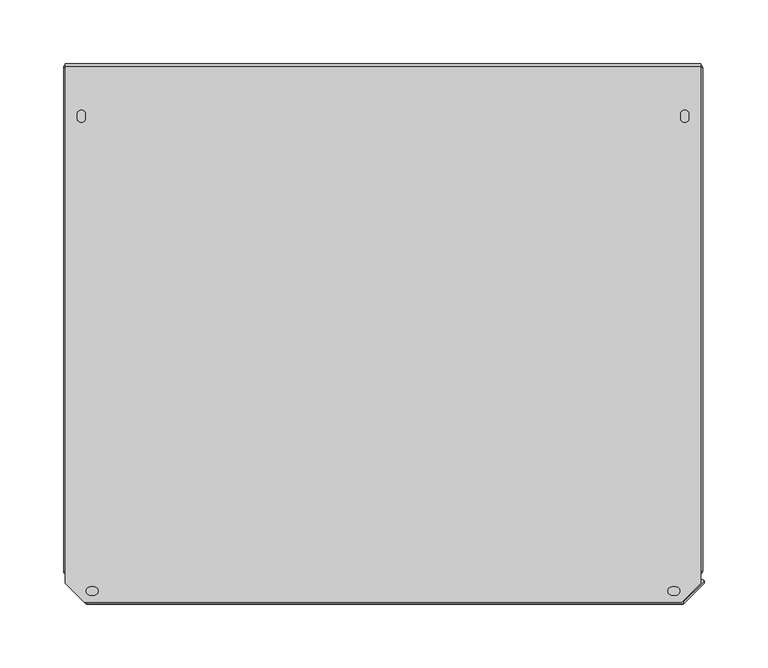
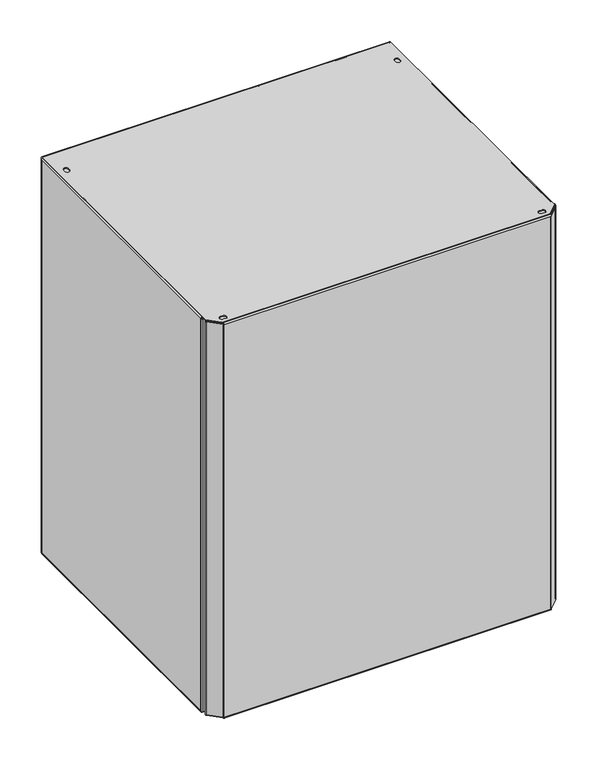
"""IFC4 building model written with IfcOpenShell, lengths in millimetres: proxy geometry, AES 48V 8A C180 AB 65 Ah : AES 48V 8A C180 AB 65 Ah."""

from ifc_helpers import new_model, si_unit, point, frame, frame_2d, origin, place, context, project, spatial, polyline, circle_curve, trimmed, segment, composite_curve, outline, extrude, faceted_brep, source, transform, mapped, element, save
from ifc_brep_helpers import plane_surface, cylinder_surface, revolved_surface, advanced_brep


def electrical_equipment_dfd686c2(model_context):
    return source(origin(), model_context, "Body", "SolidModel", [
        extrude(outline(composite_curve([segment(polyline([(-223.9437096, 1.7331973), (-222.9437137, 1.7331973)]), True, "CONTINUOUS"), segment(trimmed(circle_curve(frame_2d((-222.2070944, 1.7331973)), 0.7366193), [point((-222.9437137, 1.7331973))], [point((-222.2071096, 0.996578))], True, "CARTESIAN"), True, "CONTINUOUS"), segment(polyline([(-222.2071096, 0.996578), (-222.2071096, -0.0033973)]), True, "CONTINUOUS"), segment(trimmed(circle_curve(frame_2d((-222.2071096, 1.7332027)), 1.7366), [point((-222.2071096, -0.0033973))], [point((-223.9437096, 1.7331973))], False, "CARTESIAN"), True, "CONTINUOUS")], self_intersect=False)), frame((-233.3879617, 0.0, 0.0), z_axis=(1.0, 0.0, 0.0), x_axis=(0.0, 1.0, 0.0)), (0.0, 0.0, 1.0), 469.8475635),
        advanced_brep(
        [(236.4830901, -222.2071096, -0.0033973), (-233.4798905, -222.2071096, -0.0033973), (-249.0315, -206.6555001, -0.0033973), (-248.3243952, -204.9483981, -0.0033973), (251.3332463, -204.9483981, -0.0033973), (252.0386958, -206.6515039, -0.0033973), (236.4830901, -222.2071096, 0.996578), (252.0386958, -206.6515039, 0.996578), (251.3332463, -204.9483981, 0.996578), (-248.3644963, -204.9483981, 0.996578), (-249.0315, -206.6555001, 0.996578), (-233.4798905, -222.2071096, 0.996578)],
        [
            (0, 1),
            (1, 2),
            (2, 3, circle_curve(frame((-248.3243952, -205.9483953, -0.0033973), z_axis=(0.0, 0.0, -1.0), x_axis=(1.0, 0.0, 0.0)), 0.9999972)),
            (3, 4),
            (4, 5, circle_curve(frame((251.3332463, -205.9460544, -0.0033973), z_axis=(0.0, 0.0, -1.0), x_axis=(0.0, 1.0, 0.0)), 0.9976563)),
            (5, 0),
            (6, 7),
            (7, 8, circle_curve(frame((251.3332463, -205.9460544, 0.996578), z_axis=(0.0, 0.0, 1.0), x_axis=(0.0, 1.0, 0.0)), 0.9976563)),
            (8, 9),
            (9, 10, circle_curve(frame((-248.3243952, -205.9483953, 0.996578), z_axis=(0.0, 0.0, 1.0), x_axis=(1.0, 0.0, 0.0)), 0.9999972)),
            (10, 11),
            (11, 6),
            (5, 7),
            (6, 0),
            (4, 8),
            (3, 9),
            (2, 10),
            (1, 11),
        ],
        [
            plane_surface(frame((-233.4798903, -222.2071096, -0.0033973), z_axis=(0.0, 0.0, -1.0), x_axis=(-1.0, 0.0, 0.0))),
            plane_surface(frame((-233.4798903, -222.2071096, 0.996578), z_axis=(0.0, 0.0, 1.0), x_axis=(1.0, 0.0, 0.0))),
            plane_surface(frame((252.0386958, -206.6515039, -0.0033973), z_axis=(0.707106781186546, -0.7071067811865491, 0.0), x_axis=(0.0, 0.0, 1.0))),
            cylinder_surface(frame((251.3332463, -205.9460544, 0.996578), z_axis=(0.0, 0.0, -1.0), x_axis=(0.0, 1.0, 0.0)), 0.9976563),
            plane_surface(frame((-248.3644963, -204.9483981, -0.0033973), z_axis=(0.0, 1.0, 0.0), x_axis=(0.0, 0.0, 1.0))),
            cylinder_surface(frame((-248.3243952, -205.9483953, 0.996578), z_axis=(0.0, 0.0, -1.0), x_axis=(1.0, 0.0, 0.0)), 0.9999972),
            plane_surface(frame((-233.4798905, -222.2071096, -0.0033973), z_axis=(-0.7071067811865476, -0.7071067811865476, 0.0), x_axis=(0.0, 0.0, 1.0))),
            plane_surface(frame((236.4830901, -222.2071096, -0.0033973), z_axis=(0.0, -1.0, 0.0), x_axis=(0.0, 0.0, 1.0))),
        ],
        [
            (0, [[1, 2, 3, 4, 5, 6]]),
            (1, [[7, 8, 9, 10, 11, 12]]),
            (2, [[-6, 13, -7, 14]]),
            (3, [[-5, 15, -8, -13]]),
            (4, [[-4, 16, -9, -15]]),
            (5, [[-3, 17, -10, -16]]),
            (6, [[-2, 18, -11, -17]]),
            (7, [[-1, -14, -12, -18]]),
        ],
    ),
        extrude(outline(composite_curve([segment(trimmed(circle_curve(frame_2d((-222.2071096, 598.2599891)), 1.7366), [point((-223.9437096, 598.2599945))], [point((-222.2071096, 599.9965891))], False, "CARTESIAN"), True, "CONTINUOUS"), segment(polyline([(-222.2071096, 599.9965891), (-222.2071096, 598.9966138)]), True, "CONTINUOUS"), segment(trimmed(circle_curve(frame_2d((-222.2070944, 598.2599945)), 0.7366193), [point((-222.2071096, 598.9966138))], [point((-222.9437137, 598.2599945))], True, "CARTESIAN"), True, "CONTINUOUS"), segment(polyline([(-222.9437137, 598.2599945), (-223.9437096, 598.2599945)]), True, "CONTINUOUS")], self_intersect=False)), frame((-233.3879617, 0.0, 0.0), z_axis=(1.0, 0.0, 0.0), x_axis=(0.0, 1.0, 0.0)), (0.0, 0.0, 1.0), 469.8475635),
        advanced_brep(
        [(236.4830901, -222.2071096, 599.9965891), (252.0386958, -206.6515039, 599.9965891), (251.3332463, -204.9483981, 599.9965891), (-248.3644963, -204.9483981, 599.9965891), (-249.0315, -206.6555001, 599.9965891), (-233.4798905, -222.2071096, 599.9965891), (236.4830901, -222.2071096, 598.9966138), (-233.4798905, -222.2071096, 598.9966138), (-249.0315, -206.6555001, 598.9966138), (-248.3243952, -204.9483981, 598.9966138), (251.3332463, -204.9483981, 598.9966138), (252.0386958, -206.6515039, 598.9966138)],
        [
            (0, 1),
            (1, 2, circle_curve(frame((251.3332463, -205.9460544, 599.9965891), z_axis=(0.0, 0.0, 1.0), x_axis=(0.0, 1.0, 0.0)), 0.9976563)),
            (2, 3),
            (3, 4, circle_curve(frame((-248.3243952, -205.9483953, 599.9965891), z_axis=(0.0, 0.0, 1.0), x_axis=(1.0, 0.0, 0.0)), 0.9999972)),
            (4, 5),
            (5, 0),
            (6, 7),
            (7, 8),
            (8, 9, circle_curve(frame((-248.3243952, -205.9483953, 598.9966138), z_axis=(0.0, 0.0, -1.0), x_axis=(1.0, 0.0, 0.0)), 0.9999972)),
            (9, 10),
            (10, 11, circle_curve(frame((251.3332463, -205.9460544, 598.9966138), z_axis=(0.0, 0.0, -1.0), x_axis=(0.0, 1.0, 0.0)), 0.9976563)),
            (11, 6),
            (0, 6),
            (11, 1),
            (10, 2),
            (9, 3),
            (8, 4),
            (7, 5),
        ],
        [
            plane_surface(frame((252.0346996, -206.6555001, 599.9965891), z_axis=(0.0, 0.0, 1.0), x_axis=(0.7071067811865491, 0.707106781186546, 0.0))),
            plane_surface(frame((252.0346996, -206.6555001, 598.9966138), z_axis=(0.0, 0.0, -1.0), x_axis=(-0.7071067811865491, -0.707106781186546, 0.0))),
            plane_surface(frame((236.4830901, -222.2071096, 599.9965891), z_axis=(0.707106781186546, -0.7071067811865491, 0.0), x_axis=(0.0, 0.0, -1.0))),
            cylinder_surface(frame((251.3332463, -205.9460544, 598.9966138), z_axis=(0.0, 0.0, 1.0), x_axis=(0.0, 1.0, 0.0)), 0.9976563),
            plane_surface(frame((251.3332463, -204.9483981, 599.9965891), z_axis=(0.0, 1.0, 0.0), x_axis=(0.0, 0.0, -1.0))),
            cylinder_surface(frame((-248.3243952, -205.9483953, 598.9966138), z_axis=(0.0, 0.0, 1.0), x_axis=(1.0, 0.0, 0.0)), 0.9999972),
            plane_surface(frame((-249.0315, -206.6555001, 599.9965891), z_axis=(-0.7071067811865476, -0.7071067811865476, 0.0), x_axis=(0.0, 0.0, -1.0))),
            plane_surface(frame((-233.4798905, -222.2071096, 599.9965891), z_axis=(0.0, -1.0, 0.0), x_axis=(0.0, 0.0, -1.0))),
        ],
        [
            (0, [[1, 2, 3, 4, 5, 6]]),
            (1, [[7, 8, 9, 10, 11, 12]]),
            (2, [[-1, 13, -12, 14]]),
            (3, [[-2, -14, -11, 15]]),
            (4, [[-3, -15, -10, 16]]),
            (5, [[-4, -16, -9, 17]]),
            (6, [[-5, -17, -8, 18]]),
            (7, [[-6, -18, -7, -13]]),
        ],
    ),
        extrude(outline(composite_curve([segment(trimmed(circle_curve(frame_2d((-248.2649894, -206.684579)), 1.7371967), [point((-249.4933722, -207.9129633))], [point((-248.3241898, -204.9483913))], False, "CARTESIAN"), True, "CONTINUOUS"), segment(polyline([(-248.3241898, -204.9483913), (-239.0437194, -204.9483913), (-239.0437194, -205.948403), (-248.2654062, -205.948403)]), True, "CONTINUOUS"), segment(trimmed(circle_curve(frame_2d((-248.2654062, -206.6849972)), 0.7365943), [point((-248.2654062, -205.948403))], [point((-248.786257, -207.205848))], True, "CARTESIAN"), True, "CONTINUOUS"), segment(polyline([(-248.786257, -207.205848), (-233.3852933, -222.6068117)]), True, "CONTINUOUS"), segment(trimmed(circle_curve(frame_2d((-232.5719499, -221.7934683)), 1.1502413), [point((-233.3852933, -222.6068117))], [point((-232.5719499, -222.9437096))], True, "CARTESIAN"), True, "CONTINUOUS"), segment(polyline([(-232.5719499, -222.9437096), (235.5919828, -222.9437096)]), True, "CONTINUOUS"), segment(trimmed(circle_curve(frame_2d((235.5919828, -221.8341076)), 1.109602), [point((235.5919828, -222.9437096))], [point((236.3765899, -222.6187147))], True, "CARTESIAN"), True, "CONTINUOUS"), segment(polyline([(236.3765899, -222.6187147), (251.7894486, -207.205856)]), True, "CONTINUOUS"), segment(trimmed(circle_curve(frame_2d((251.2685945, -206.6850019)), 0.7365989), [point((251.7894486, -207.205856))], [point((251.2685945, -205.948403))], True, "CARTESIAN"), True, "CONTINUOUS"), segment(polyline([(251.2685945, -205.948403), (242.046919, -205.948403), (242.046919, -204.9483981), (251.3275882, -204.9483981)]), True, "CONTINUOUS"), segment(trimmed(circle_curve(frame_2d((251.3275882, -206.6611568)), 1.7127587), [point((251.3275882, -204.9483981))], [point((252.4965719, -207.9129633))], False, "CARTESIAN"), True, "CONTINUOUS"), segment(polyline([(252.4965719, -207.9129633), (237.1101717, -223.2993454)]), True, "CONTINUOUS"), segment(trimmed(circle_curve(frame_2d((235.5545377, -221.7437096)), 2.2), [point((237.1101717, -223.2993454))], [point((235.5545377, -223.9437096))], False, "CARTESIAN"), True, "CONTINUOUS"), segment(polyline([(235.5545377, -223.9437096), (-232.9448591, -223.9437096)]), True, "CONTINUOUS"), segment(trimmed(circle_curve(frame_2d((-232.9448591, -222.6937543)), 1.2499553), [point((-232.9448591, -223.9437096))], [point((-233.8287105, -223.5776067))], False, "CARTESIAN"), True, "CONTINUOUS"), segment(polyline([(-233.8287105, -223.5776067), (-249.4933722, -207.9129633)]), True, "CONTINUOUS")], self_intersect=False)), frame((0.0, 0.0, 1.7300001), z_axis=(0.0, 0.0, 1.0), x_axis=(1.0, 0.0, 0.0)), (0.0, 0.0, 1.0), 596.5299944),
        extrude(outline(polyline([(593.9965919, 249.9999946), (593.9965919, -249.999991), (5.9965998, -249.999991), (5.9965998, 249.9999946), (593.9965919, 249.9999946)]), holes=[composite_curve([segment(trimmed(circle_curve(frame_2d((476.2996846, 233.5465454)), 7.9534552), [point((476.2996846, 241.5000006))], [point((476.2996846, 225.5930903))], True, "CARTESIAN"), True, "CONTINUOUS"), segment(trimmed(circle_curve(frame_2d((476.2996846, 233.5465454)), 7.9534552), [point((476.2996846, 225.5930903))], [point((476.2996846, 241.5000006))], True, "CARTESIAN"), True, "CONTINUOUS")], self_intersect=False), composite_curve([segment(trimmed(circle_curve(frame_2d((476.2996846, -233.5465418)), 7.9534552), [point((476.2996846, -241.499997))], [point((476.2996846, -225.5930867))], True, "CARTESIAN"), True, "CONTINUOUS"), segment(trimmed(circle_curve(frame_2d((476.2996846, -233.5465418)), 7.9534552), [point((476.2996846, -225.5930867))], [point((476.2996846, -241.499997))], True, "CARTESIAN"), True, "CONTINUOUS")], self_intersect=False), composite_curve([segment(trimmed(circle_curve(frame_2d((238.2382923, 233.5465454)), 7.9534552), [point((238.2382923, 241.5000006))], [point((238.2382923, 225.5930903))], True, "CARTESIAN"), True, "CONTINUOUS"), segment(trimmed(circle_curve(frame_2d((238.2382923, 233.5465454)), 7.9534552), [point((238.2382923, 225.5930903))], [point((238.2382923, 241.5000006))], True, "CARTESIAN"), True, "CONTINUOUS")], self_intersect=False), composite_curve([segment(trimmed(circle_curve(frame_2d((238.2382923, -233.5465418)), 7.9534552), [point((238.2382923, -241.499997))], [point((238.2382923, -225.5930867))], True, "CARTESIAN"), True, "CONTINUOUS"), segment(trimmed(circle_curve(frame_2d((238.2382923, -233.5465418)), 7.9534552), [point((238.2382923, -225.5930867))], [point((238.2382923, -241.499997))], True, "CARTESIAN"), True, "CONTINUOUS")], self_intersect=False)]), frame((0.0, 200.0016019, 0.0), z_axis=(0.0, 1.0, 0.0), x_axis=(0.0, 0.0, 1.0)), (0.0, 0.0, 1.0), 1.0),
        advanced_brep(
        [(225.6779933, -199.0016068, 1.7366), (249.7649945, -199.0016068, 1.7366), (250.5016, -198.2649981, 1.7366), (251.5015966, -198.2649981, 1.7366), (249.7649945, -200.0016003, 1.7366), (226.0021062, -200.0016003, 1.7366), (225.5049927, -200.4987137, 1.7366), (225.5049927, -201.5785486, 1.7366), (224.5049992, -201.5785486, 1.7366), (224.5049992, -200.1746009, 1.7366), (225.6779933, -199.0016068, 597.9966), (224.5049992, -200.1746009, 597.9966), (224.5049992, -208.0016025, 597.9966), (225.5049927, -208.0016025, 597.9966), (225.5049927, -200.4987137, 597.9966), (226.0021062, -200.0016003, 597.9966), (249.7649945, -200.0016003, 597.9966), (251.5015966, -198.2649981, 597.9966), (250.5016, -198.2649981, 597.9966), (249.7649945, -199.0016037, 597.9966), (225.5049927, -208.0016025, 25.9966009), (225.5049927, -201.5785486, 25.9966009), (224.5049992, -208.0016025, 25.9966009), (224.5049992, -201.5785486, 25.9966009)],
        [
            (0, 1),
            (1, 2, circle_curve(frame((249.7649945, -198.2649981, 1.7366), z_axis=(0.0, 0.0, 1.0), x_axis=(1.0, 0.0, 0.0)), 0.7366055)),
            (2, 3),
            (3, 4, circle_curve(frame((249.7649945, -198.2649981, 1.7366), z_axis=(0.0, 0.0, -1.0), x_axis=(1.0, 0.0, 0.0)), 1.7366021)),
            (4, 5),
            (5, 6, circle_curve(frame((226.0021062, -200.4987137, 1.7366), z_axis=(0.0, 0.0, 1.0), x_axis=(1.0, 0.0, 0.0)), 0.4971135)),
            (6, 7),
            (7, 8),
            (8, 9),
            (9, 0, circle_curve(frame((225.6779933, -200.1746009, 1.7366), z_axis=(0.0, 0.0, -1.0), x_axis=(1.0, 0.0, 0.0)), 1.1729941)),
            (10, 11, circle_curve(frame((225.6779933, -200.1746009, 597.9966), z_axis=(0.0, 0.0, 1.0), x_axis=(1.0, 0.0, 0.0)), 1.1729941)),
            (11, 12),
            (12, 13),
            (13, 14),
            (14, 15, circle_curve(frame((226.0021062, -200.4987137, 597.9966), z_axis=(0.0, 0.0, -1.0), x_axis=(1.0, 0.0, 0.0)), 0.4971135)),
            (15, 16),
            (16, 17, circle_curve(frame((249.7649945, -198.2649981, 597.9966), z_axis=(0.0, 0.0, 1.0), x_axis=(1.0, 0.0, 0.0)), 1.7366021)),
            (17, 18),
            (18, 19, circle_curve(frame((249.7649945, -198.2649981, 597.9966), z_axis=(0.0, 0.0, -1.0), x_axis=(1.0, 0.0, 0.0)), 0.7366055)),
            (19, 10),
            (0, 10),
            (19, 1),
            (18, 2),
            (17, 3),
            (16, 4),
            (15, 5),
            (14, 6),
            (13, 20),
            (20, 21),
            (21, 7),
            (12, 22),
            (22, 20),
            (11, 9),
            (8, 23),
            (23, 22),
            (21, 23),
        ],
        [
            plane_surface(frame((226.8509874, -200.1746009, 1.7366), z_axis=(0.0, 0.0, -1.0), x_axis=(0.0, -1.0, 0.0))),
            plane_surface(frame((226.8509874, -200.1746009, 597.9966), z_axis=(0.0, 0.0, 1.0), x_axis=(0.0, 1.0, 0.0))),
            plane_surface(frame((249.7649945, -199.0016068, 597.9966), z_axis=(0.0, 1.0, 0.0), x_axis=(0.0, 0.0, -1.0))),
            revolved_surface(polyline([(250.5016, -198.2649981, 1.7366), (250.5016, -198.2649981, 597.9966)]), (249.7649945, -198.2649981, 1.7366), (0.0, 0.0, -1.0)),
            plane_surface(frame((251.5015966, -198.2649981, 597.9966), z_axis=(0.0, 1.0, 0.0), x_axis=(0.0, 0.0, -1.0))),
            cylinder_surface(frame((249.7649945, -198.2649981, 1.7366), z_axis=(0.0, 0.0, 1.0), x_axis=(1.0, 0.0, 0.0)), 1.7366021),
            plane_surface(frame((226.0021062, -200.0016003, 597.9966), z_axis=(0.0, -1.0, 0.0), x_axis=(0.0, 0.0, -1.0))),
            revolved_surface(polyline([(226.4992197, -200.4987137, 1.7366), (226.4992197, -200.4987137, 597.9966)]), (226.0021062, -200.4987137, 1.7366), (0.0, 0.0, -1.0)),
            plane_surface(frame((225.5049927, -208.0016025, 597.9966), z_axis=(1.0, 0.0, 0.0), x_axis=(0.0, 0.0, -1.0))),
            plane_surface(frame((224.5049992, -208.0016025, 597.9966), z_axis=(0.0, -1.0, 0.0), x_axis=(0.0, 0.0, -1.0))),
            plane_surface(frame((224.5049992, -200.1746009, 597.9966), z_axis=(-1.0, 0.0, 0.0), x_axis=(0.0, 0.0, -1.0))),
            cylinder_surface(frame((225.6779933, -200.1746009, 1.7366), z_axis=(0.0, 0.0, 1.0), x_axis=(1.0, 0.0, 0.0)), 1.1729941),
            plane_surface(frame((225.5049927, -201.5785486, 1.7366), z_axis=(0.0, -1.0, 0.0), x_axis=(0.0, 0.0, -1.0))),
            plane_surface(frame((224.5049992, -201.5785486, 25.9966009), z_axis=(0.0, 0.0, -1.0), x_axis=(0.0, -1.0, 0.0))),
        ],
        [
            (0, [[1, 2, 3, 4, 5, 6, 7, 8, 9, 10]]),
            (1, [[11, 12, 13, 14, 15, 16, 17, 18, 19, 20]]),
            (2, [[-1, 21, -20, 22]]),
            (3, [[-2, -22, -19, 23]]),
            (4, [[-3, -23, -18, 24]]),
            (5, [[-4, -24, -17, 25]]),
            (6, [[-5, -25, -16, 26]]),
            (7, [[-6, -26, -15, 27]]),
            (8, [[-14, 28, 29, 30, -7, -27]]),
            (9, [[-13, 31, 32, -28]]),
            (10, [[-12, 33, -9, 34, 35, -31]]),
            (11, [[-10, -33, -11, -21]]),
            (12, [[36, -34, -8, -30]]),
            (13, [[-36, -29, -32, -35]]),
        ],
    ),
        advanced_brep(
        [(227.5016005, 199.0016068, 1.7366), (227.5016005, 200.0016003, 1.7366), (249.7649945, 200.0016003, 1.7366), (251.5015966, 198.2649981, 1.7366), (250.5016, 198.2649981, 1.7366), (249.7649945, 199.0016037, 1.7366), (227.5016005, 199.0016068, 597.9966), (249.7649945, 199.0016068, 597.9966), (250.5016, 198.2649981, 597.9966), (251.5015966, 198.2649981, 597.9966), (249.7649945, 200.0016003, 597.9966), (227.5016005, 200.0016003, 597.9966)],
        [
            (0, 1),
            (1, 2),
            (2, 3, circle_curve(frame((249.7649945, 198.2649981, 1.7366), z_axis=(0.0, 0.0, -1.0), x_axis=(1.0, 0.0, 0.0)), 1.7366021)),
            (3, 4),
            (4, 5, circle_curve(frame((249.7649945, 198.2649981, 1.7366), z_axis=(0.0, 0.0, 1.0), x_axis=(1.0, 0.0, 0.0)), 0.7366055)),
            (5, 0),
            (6, 7),
            (7, 8, circle_curve(frame((249.7649945, 198.2649981, 597.9966), z_axis=(0.0, 0.0, -1.0), x_axis=(1.0, 0.0, 0.0)), 0.7366055)),
            (8, 9),
            (9, 10, circle_curve(frame((249.7649945, 198.2649981, 597.9966), z_axis=(0.0, 0.0, 1.0), x_axis=(1.0, 0.0, 0.0)), 1.7366021)),
            (10, 11),
            (11, 6),
            (6, 0),
            (5, 7),
            (4, 8),
            (3, 9),
            (2, 10),
            (1, 11),
        ],
        [
            plane_surface(frame((249.7649945, 199.0016068, 1.7366), z_axis=(0.0, 0.0, -1.0), x_axis=(-1.0, 0.0, 0.0))),
            plane_surface(frame((249.7649945, 199.0016068, 597.9966), z_axis=(0.0, 0.0, 1.0), x_axis=(1.0, 0.0, 0.0))),
            plane_surface(frame((227.5016005, 199.0016068, 597.9966), z_axis=(0.0, -1.0, 0.0), x_axis=(0.0, 0.0, -1.0))),
            revolved_surface(polyline([(250.5016, 198.2649981, 1.7366), (250.5016, 198.2649981, 597.9966)]), (249.7649945, 198.2649981, 1.7366), (0.0, 0.0, -1.0)),
            plane_surface(frame((250.5016, 198.2649981, 597.9966), z_axis=(0.0, -1.0, 0.0), x_axis=(0.0, 0.0, -1.0))),
            cylinder_surface(frame((249.7649945, 198.2649981, 1.7366), z_axis=(0.0, 0.0, 1.0), x_axis=(1.0, 0.0, 0.0)), 1.7366021),
            plane_surface(frame((249.7649945, 200.0016003, 597.9966), z_axis=(0.0, 1.0, 0.0), x_axis=(0.0, 0.0, -1.0))),
            plane_surface(frame((227.5016005, 200.0016003, 597.9966), z_axis=(-1.0, 0.0, 0.0), x_axis=(0.0, 0.0, -1.0))),
        ],
        [
            (0, [[1, 2, 3, 4, 5, 6]]),
            (1, [[7, 8, 9, 10, 11, 12]]),
            (2, [[-7, 13, -6, 14]]),
            (3, [[-8, -14, -5, 15]]),
            (4, [[-9, -15, -4, 16]]),
            (5, [[-10, -16, -3, 17]]),
            (6, [[-11, -17, -2, 18]]),
            (7, [[-12, -18, -1, -13]]),
        ],
    ),
        advanced_brep(
        [(-227.5016005, 199.0016068, 1.7366), (-249.7649945, 199.0016068, 1.7366), (-250.5016, 198.2649981, 1.7366), (-251.5015966, 198.2649981, 1.7366), (-249.7649945, 200.0016003, 1.7366), (-227.5016005, 200.0016003, 1.7366), (-227.5016005, 199.0016068, 597.9966), (-227.5016005, 200.0016003, 597.9966), (-249.7649945, 200.0016003, 597.9966), (-251.5015966, 198.2649981, 597.9966), (-250.5016, 198.2649981, 597.9966), (-249.7649945, 199.0016037, 597.9966)],
        [
            (0, 1),
            (1, 2, circle_curve(frame((-249.7649945, 198.2649981, 1.7366), z_axis=(0.0, 0.0, 1.0), x_axis=(-1.0, 0.0, 0.0)), 0.7366055)),
            (2, 3),
            (3, 4, circle_curve(frame((-249.7649945, 198.2649981, 1.7366), z_axis=(0.0, 0.0, -1.0), x_axis=(-1.0, 0.0, 0.0)), 1.7366021)),
            (4, 5),
            (5, 0),
            (6, 7),
            (7, 8),
            (8, 9, circle_curve(frame((-249.7649945, 198.2649981, 597.9966), z_axis=(0.0, 0.0, 1.0), x_axis=(-1.0, 0.0, 0.0)), 1.7366021)),
            (9, 10),
            (10, 11, circle_curve(frame((-249.7649945, 198.2649981, 597.9966), z_axis=(0.0, 0.0, -1.0), x_axis=(-1.0, 0.0, 0.0)), 0.7366055)),
            (11, 6),
            (11, 1),
            (0, 6),
            (10, 2),
            (9, 3),
            (8, 4),
            (7, 5),
        ],
        [
            plane_surface(frame((-227.5016005, 200.0016003, 1.7366), z_axis=(0.0, 0.0, -1.0), x_axis=(0.0, -1.0, 0.0))),
            plane_surface(frame((-227.5016005, 200.0016003, 597.9966), z_axis=(0.0, 0.0, 1.0), x_axis=(0.0, 1.0, 0.0))),
            plane_surface(frame((-249.7649945, 199.0016068, 597.9966), z_axis=(0.0, -1.0, 0.0), x_axis=(0.0, 0.0, -1.0))),
            revolved_surface(polyline([(-250.5016, 198.2649981, 1.7366), (-250.5016, 198.2649981, 597.9966)]), (-249.7649945, 198.2649981, 1.7366), (0.0, 0.0, -1.0)),
            plane_surface(frame((-251.5015966, 198.2649981, 597.9966), z_axis=(0.0, -1.0, 0.0), x_axis=(0.0, 0.0, -1.0))),
            cylinder_surface(frame((-249.7649945, 198.2649981, 1.7366), z_axis=(0.0, 0.0, 1.0), x_axis=(-1.0, 0.0, 0.0)), 1.7366021),
            plane_surface(frame((-227.5016005, 200.0016003, 597.9966), z_axis=(0.0, 1.0, 0.0), x_axis=(0.0, 0.0, -1.0))),
            plane_surface(frame((-227.5016005, 199.0016068, 597.9966), z_axis=(1.0, 0.0, 0.0), x_axis=(0.0, 0.0, -1.0))),
        ],
        [
            (0, [[1, 2, 3, 4, 5, 6]]),
            (1, [[7, 8, 9, 10, 11, 12]]),
            (2, [[-12, 13, -1, 14]]),
            (3, [[-11, 15, -2, -13]]),
            (4, [[-10, 16, -3, -15]]),
            (5, [[-9, 17, -4, -16]]),
            (6, [[-8, 18, -5, -17]]),
            (7, [[-7, -14, -6, -18]]),
        ],
    ),
        advanced_brep(
        [(-225.6779933, -199.0016068, 1.7366), (-224.5049992, -200.1746009, 1.7366), (-224.5049992, -201.5785486, 1.7366), (-225.5049927, -201.5785486, 1.7366), (-225.5049927, -200.4987137, 1.7366), (-226.0021062, -200.0016003, 1.7366), (-249.7649945, -200.0016003, 1.7366), (-251.5015966, -198.2649981, 1.7366), (-250.5016, -198.2649981, 1.7366), (-249.7649945, -199.0016037, 1.7366), (-225.6779933, -199.0016068, 597.9966), (-249.7649945, -199.0016068, 597.9966), (-250.5016, -198.2649981, 597.9966), (-251.5015966, -198.2649981, 597.9966), (-249.7649945, -200.0016003, 597.9966), (-226.0021062, -200.0016003, 597.9966), (-225.5049927, -200.4987137, 597.9966), (-225.5049927, -208.0016025, 597.9966), (-224.5049992, -208.0016025, 597.9966), (-224.5049992, -200.1746009, 597.9966), (-225.5049927, -201.5785486, 25.9966009), (-225.5049927, -208.0016025, 25.9966009), (-224.5049992, -208.0016025, 25.9966009), (-224.5049992, -201.5785486, 25.9966009)],
        [
            (0, 1, circle_curve(frame((-225.6779933, -200.1746009, 1.7366), z_axis=(0.0, 0.0, -1.0), x_axis=(-1.0, 0.0, 0.0)), 1.1729941)),
            (1, 2),
            (2, 3),
            (3, 4),
            (4, 5, circle_curve(frame((-226.0021062, -200.4987137, 1.7366), z_axis=(0.0, 0.0, 1.0), x_axis=(-1.0, 0.0, 0.0)), 0.4971135)),
            (5, 6),
            (6, 7, circle_curve(frame((-249.7649945, -198.2649981, 1.7366), z_axis=(0.0, 0.0, -1.0), x_axis=(-1.0, 0.0, 0.0)), 1.7366021)),
            (7, 8),
            (8, 9, circle_curve(frame((-249.7649945, -198.2649981, 1.7366), z_axis=(0.0, 0.0, 1.0), x_axis=(-1.0, 0.0, 0.0)), 0.7366055)),
            (9, 0),
            (10, 11),
            (11, 12, circle_curve(frame((-249.7649945, -198.2649981, 597.9966), z_axis=(0.0, 0.0, -1.0), x_axis=(-1.0, 0.0, 0.0)), 0.7366055)),
            (12, 13),
            (13, 14, circle_curve(frame((-249.7649945, -198.2649981, 597.9966), z_axis=(0.0, 0.0, 1.0), x_axis=(-1.0, 0.0, 0.0)), 1.7366021)),
            (14, 15),
            (15, 16, circle_curve(frame((-226.0021062, -200.4987137, 597.9966), z_axis=(0.0, 0.0, -1.0), x_axis=(-1.0, 0.0, 0.0)), 0.4971135)),
            (16, 17),
            (17, 18),
            (18, 19),
            (19, 10, circle_curve(frame((-225.6779933, -200.1746009, 597.9966), z_axis=(0.0, 0.0, 1.0), x_axis=(-1.0, 0.0, 0.0)), 1.1729941)),
            (9, 11),
            (10, 0),
            (8, 12),
            (7, 13),
            (6, 14),
            (5, 15),
            (4, 16),
            (3, 20),
            (20, 21),
            (21, 17),
            (21, 22),
            (22, 18),
            (22, 23),
            (23, 2),
            (1, 19),
            (23, 20),
        ],
        [
            plane_surface(frame((-249.7649945, -199.0016068, 1.7366), z_axis=(0.0, 0.0, -1.0), x_axis=(1.0, 0.0, 0.0))),
            plane_surface(frame((-249.7649945, -199.0016068, 597.9966), z_axis=(0.0, 0.0, 1.0), x_axis=(-1.0, 0.0, 0.0))),
            plane_surface(frame((-225.6779933, -199.0016068, 597.9966), z_axis=(0.0, 1.0, 0.0), x_axis=(0.0, 0.0, -1.0))),
            revolved_surface(polyline([(-250.5016, -198.2649981, 1.7366), (-250.5016, -198.2649981, 597.9966)]), (-249.7649945, -198.2649981, 1.7366), (0.0, 0.0, -1.0)),
            plane_surface(frame((-250.5016, -198.2649981, 597.9966), z_axis=(0.0, 1.0, 0.0), x_axis=(0.0, 0.0, -1.0))),
            cylinder_surface(frame((-249.7649945, -198.2649981, 1.7366), z_axis=(0.0, 0.0, 1.0), x_axis=(-1.0, 0.0, 0.0)), 1.7366021),
            plane_surface(frame((-249.7649945, -200.0016003, 597.9966), z_axis=(0.0, -1.0, 0.0), x_axis=(0.0, 0.0, -1.0))),
            revolved_surface(polyline([(-226.4992197, -200.4987137, 1.7366), (-226.4992197, -200.4987137, 597.9966)]), (-226.0021062, -200.4987137, 1.7366), (0.0, 0.0, -1.0)),
            plane_surface(frame((-225.5049927, -200.4987137, 597.9966), z_axis=(-1.0, 0.0, 0.0), x_axis=(0.0, 0.0, -1.0))),
            plane_surface(frame((-225.5049927, -208.0016025, 597.9966), z_axis=(0.0, -1.0, 0.0), x_axis=(0.0, 0.0, -1.0))),
            plane_surface(frame((-224.5049992, -208.0016025, 597.9966), z_axis=(1.0, 0.0, 0.0), x_axis=(0.0, 0.0, -1.0))),
            cylinder_surface(frame((-225.6779933, -200.1746009, 1.7366), z_axis=(0.0, 0.0, 1.0), x_axis=(-1.0, 0.0, 0.0)), 1.1729941),
            plane_surface(frame((-224.5049992, -201.5785486, 25.9966009), z_axis=(0.0, -1.0, 0.0), x_axis=(1.0, 0.0, 0.0))),
            plane_surface(frame((-225.5049927, -201.5785486, 25.9966009), z_axis=(0.0, 0.0, -1.0), x_axis=(0.0, -1.0, 0.0))),
        ],
        [
            (0, [[1, 2, 3, 4, 5, 6, 7, 8, 9, 10]]),
            (1, [[11, 12, 13, 14, 15, 16, 17, 18, 19, 20]]),
            (2, [[-10, 21, -11, 22]]),
            (3, [[-9, 23, -12, -21]]),
            (4, [[-8, 24, -13, -23]]),
            (5, [[-7, 25, -14, -24]]),
            (6, [[-6, 26, -15, -25]]),
            (7, [[-5, 27, -16, -26]]),
            (8, [[-17, -27, -4, 28, 29, 30]]),
            (9, [[-18, -30, 31, 32]]),
            (10, [[-19, -32, 33, 34, -2, 35]]),
            (11, [[-1, -22, -20, -35]]),
            (12, [[36, -28, -3, -34]]),
            (13, [[-36, -33, -31, -29]]),
        ],
    ),
        extrude(outline(composite_curve([segment(polyline([(598.9966138, -227.5016005), (599.9965891, -227.5016005), (599.9965891, -249.7957844)]), True, "CONTINUOUS"), segment(trimmed(circle_curve(frame_2d((598.2907735, -249.7957844)), 1.7058156), [point((599.9965891, -249.7957844))], [point((598.2907735, -251.5016))], False, "CARTESIAN"), True, "CONTINUOUS"), segment(polyline([(598.2907735, -251.5016), (1.6890274, -251.5016)]), True, "CONTINUOUS"), segment(trimmed(circle_curve(frame_2d((1.6890274, -249.8125726)), 1.6890274), [point((1.6890274, -251.5016))], [point((0.0, -249.8125726))], False, "CARTESIAN"), True, "CONTINUOUS"), segment(polyline([(0.0, -249.8125726), (0.0, 2.9473757), (0.0, 249.7649981)]), True, "CONTINUOUS"), segment(trimmed(circle_curve(frame_2d((1.7366019, 249.7649981)), 1.7366019), [point((0.0, 249.7649981))], [point((1.7366019, 251.5016))], False, "CARTESIAN"), True, "CONTINUOUS"), segment(polyline([(1.7366019, 251.5016), (598.2780749, 251.5016)]), True, "CONTINUOUS"), segment(trimmed(circle_curve(frame_2d((598.2780749, 249.7830858)), 1.7185142), [point((598.2780749, 251.5016))], [point((599.9965891, 249.7830858))], False, "CARTESIAN"), True, "CONTINUOUS"), segment(polyline([(599.9965891, 249.7830858), (599.9965891, 227.5016041), (598.9966138, 227.5016041), (598.9966138, 249.7417563)]), True, "CONTINUOUS"), segment(trimmed(circle_curve(frame_2d((598.2367701, 249.7417563)), 0.7598437), [point((598.9966138, 249.7417563))], [point((598.2367701, 250.5016))], True, "CARTESIAN"), True, "CONTINUOUS"), segment(polyline([(598.2367701, 250.5016), (1.7366019, 250.5016)]), True, "CONTINUOUS"), segment(trimmed(circle_curve(frame_2d((1.7366019, 249.7649981)), 0.7366019), [point((1.7366019, 250.5016))], [point((1.0, 249.7649981))], True, "CARTESIAN"), True, "CONTINUOUS"), segment(polyline([(1.0, 249.7649981), (1.0, -5.5874638), (1.0, -249.7858024)]), True, "CONTINUOUS"), segment(trimmed(circle_curve(frame_2d((1.7157976, -249.7858024)), 0.7157976), [point((1.0, -249.7858024))], [point((1.7157976, -250.5016))], True, "CARTESIAN"), True, "CONTINUOUS"), segment(polyline([(1.7157976, -250.5016), (598.2629687, -250.5016)]), True, "CONTINUOUS"), segment(trimmed(circle_curve(frame_2d((598.2629687, -249.7679549)), 0.7336451), [point((598.2629687, -250.5016))], [point((598.9966138, -249.7679549))], True, "CARTESIAN"), True, "CONTINUOUS"), segment(polyline([(598.9966138, -249.7679549), (598.9966138, -227.5016005)]), True, "CONTINUOUS")], self_intersect=False)), frame((0.0, -198.2649981, 0.0), z_axis=(0.0, 1.0, 0.0), x_axis=(0.0, 0.0, 1.0)), (0.0, 0.0, 1.0), 396.53),
        extrude(outline(composite_curve([segment(polyline([(200.0016003, 591.4965992), (200.0016003, 599.2600061)]), True, "CONTINUOUS"), segment(trimmed(circle_curve(frame_2d((199.2650064, 599.2600061)), 0.7365939), [point((200.0016003, 599.2600061))], [point((199.2650019, 599.9966))], True, "CARTESIAN"), True, "CONTINUOUS"), segment(polyline([(199.2650019, 599.9966), (199.2650019, 601.4966038)]), True, "CONTINUOUS"), segment(trimmed(circle_curve(frame_2d((199.2650019, 599.2600061)), 2.2365977), [point((199.2650019, 601.4966038))], [point((201.5015996, 599.2600061))], False, "CARTESIAN"), True, "CONTINUOUS"), segment(polyline([(201.5015996, 599.2600061), (201.5015996, 591.4965992), (200.0016003, 591.4965992)]), True, "CONTINUOUS")], self_intersect=False)), frame((-249.9984, 0.0, 0.0), z_axis=(1.0, 0.0, 0.0), x_axis=(0.0, 1.0, 0.0)), (0.0, 0.0, 1.0), 499.9999934),
        extrude(outline(polyline([(250.0015934, -207.4983992), (235.0016005, -222.4983921), (-234.9983994, -222.4983921), (-249.9983923, -207.4983992), (-249.9983923, 199.2650019), (250.0015934, 199.2650019), (250.0015934, -207.4983992)]), holes=[composite_curve([segment(polyline([(-240.7484, 161.5016019), (-240.7484, 158.5016019)]), True, "CONTINUOUS"), segment(trimmed(circle_curve(frame_2d((-237.4984, 158.5016019)), 3.25), [point((-240.7484, 158.5016019))], [point((-234.2484, 158.5016019))], True, "CARTESIAN"), True, "CONTINUOUS"), segment(polyline([(-234.2484, 158.5016019), (-234.2484, 161.5016019)]), True, "CONTINUOUS"), segment(trimmed(circle_curve(frame_2d((-237.4984, 161.5016019)), 3.25), [point((-234.2484, 161.5016019))], [point((-240.7484, 161.5016019))], True, "CARTESIAN"), True, "CONTINUOUS")], self_intersect=False), composite_curve([segment(polyline([(-230.4984, -216.9983981), (-227.4984, -216.9983981)]), True, "CONTINUOUS"), segment(trimmed(circle_curve(frame_2d((-227.4984, -213.7483981)), 3.25), [point((-227.4984, -216.9983981))], [point((-227.4984, -210.4983981))], True, "CARTESIAN"), True, "CONTINUOUS"), segment(polyline([(-227.4984, -210.4983981), (-230.4984, -210.4983981)]), True, "CONTINUOUS"), segment(trimmed(circle_curve(frame_2d((-230.4984, -213.7483981)), 3.25), [point((-230.4984, -210.4983981))], [point((-230.4984, -216.9983981))], True, "CARTESIAN"), True, "CONTINUOUS")], self_intersect=False), composite_curve([segment(polyline([(227.5016, -216.9983981), (230.5016, -216.9983981)]), True, "CONTINUOUS"), segment(trimmed(circle_curve(frame_2d((230.5016, -213.7483981)), 3.25), [point((230.5016, -216.9983981))], [point((230.5016, -210.4983981))], True, "CARTESIAN"), True, "CONTINUOUS"), segment(polyline([(230.5016, -210.4983981), (227.5016, -210.4983981)]), True, "CONTINUOUS"), segment(trimmed(circle_curve(frame_2d((227.5016, -213.7483981)), 3.25), [point((227.5016, -210.4983981))], [point((227.5016, -216.9983981))], True, "CARTESIAN"), True, "CONTINUOUS")], self_intersect=False), composite_curve([segment(polyline([(234.2516, 161.5016019), (234.2516, 158.5016019)]), True, "CONTINUOUS"), segment(trimmed(circle_curve(frame_2d((237.5016, 158.5016019)), 3.25), [point((234.2516, 158.5016019))], [point((240.7516, 158.5016019))], True, "CARTESIAN"), True, "CONTINUOUS"), segment(polyline([(240.7516, 158.5016019), (240.7516, 161.5016019)]), True, "CONTINUOUS"), segment(trimmed(circle_curve(frame_2d((237.5016, 161.5016019)), 3.25), [point((240.7516, 161.5016019))], [point((234.2516, 161.5016019))], True, "CARTESIAN"), True, "CONTINUOUS")], self_intersect=False)]), frame((0.0, 0.0, 599.9966), z_axis=(0.0, 0.0, 1.0), x_axis=(1.0, 0.0, 0.0)), (0.0, 0.0, 1.0), 1.5000065),
        faceted_brep([(-238.0042926, -186.5042944, -7.4999998), (-238.0042926, -173.4989093, -7.4999998), (-224.9989074, -173.4989093, -7.4999998), (-224.9989074, -186.5042944, -7.4999998), (-241.5016035, -190.0016019, 0.0), (-221.5016, -190.0016019, 0.0), (-221.5016, -170.0015964, 0.0), (-241.5016035, -170.0015964, 0.0)], [[[0, 1, 2, 3]], [[4, 5, 6, 7]], [[5, 4, 0, 3]], [[6, 5, 3, 2]], [[7, 6, 2, 1]], [[4, 7, 1, 0]]]),
        faceted_brep([(238.0042926, -186.5042944, -7.4999998), (224.9989074, -186.5042944, -7.4999998), (224.9989074, -173.4989093, -7.4999998), (238.0042926, -173.4989093, -7.4999998), (241.5016035, -190.0016019, 0.0), (241.5016035, -170.0015964, 0.0), (221.5016, -170.0015964, 0.0), (221.5016, -190.0016019, 0.0)], [[[0, 1, 2, 3]], [[4, 5, 6, 7]], [[4, 7, 1, 0]], [[7, 6, 2, 1]], [[6, 5, 3, 2]], [[5, 4, 0, 3]]]),
        faceted_brep([(-238.0042926, 184.7855444, -7.4999998), (-224.9989074, 184.7855444, -7.4999998), (-224.9989074, 171.7801593, -7.4999998), (-238.0042926, 171.7801593, -7.4999998), (-241.5016035, 188.2828519, 0.0), (-241.5016035, 168.2828464, 0.0), (-221.5016, 168.2828464, 0.0), (-221.5016, 188.2828519, 0.0)], [[[0, 1, 2, 3]], [[4, 5, 6, 7]], [[4, 7, 1, 0]], [[7, 6, 2, 1]], [[6, 5, 3, 2]], [[5, 4, 0, 3]]]),
        faceted_brep([(238.0042926, 186.5042944, -7.4999998), (238.0042926, 173.4989093, -7.4999998), (224.9989074, 173.4989093, -7.4999998), (224.9989074, 186.5042944, -7.4999998), (241.5016035, 190.0016019, 0.0), (221.5016, 190.0016019, 0.0), (221.5016, 170.0015964, 0.0), (241.5016035, 170.0015964, 0.0)], [[[0, 1, 2, 3]], [[4, 5, 6, 7]], [[5, 4, 0, 3]], [[6, 5, 3, 2]], [[7, 6, 2, 1]], [[4, 7, 1, 0]]]),
    ])


if __name__ == "__main__":
    model = new_model("IFC4")
    model_context = context("Model", 3, world=origin())
    ifc_project = project(units=[si_unit("LENGTHUNIT", "METRE", prefix="MILLI")], contexts=[model_context])
    site = spatial("IfcSite", under=ifc_project)
    building = spatial("IfcBuilding", under=site)
    placement = place(None, origin())
    electrical_equipment_shape = electrical_equipment_dfd686c2(model_context)
    element("IfcBuildingElementProxy", 1, Name="AES 48V 8A C180 AB 65 Ah : AES 48V 8A C180 AB 65 Ah", ObjectType="AES 48V 8A C180 AB 65 Ah : AES 48V 8A C180 AB 65 Ah", at=placement, inside=building, context=model_context, shape_type="MappedRepresentation", body=[
        mapped(electrical_equipment_shape, transform((0.0, 0.0, 0.0), x_axis=(1.0, 0.0, 0.0), y_axis=(0.0, 1.0, 0.0), z_axis=(0.0, 0.0, 1.0))),
    ])
    save(model, "model.ifc")
